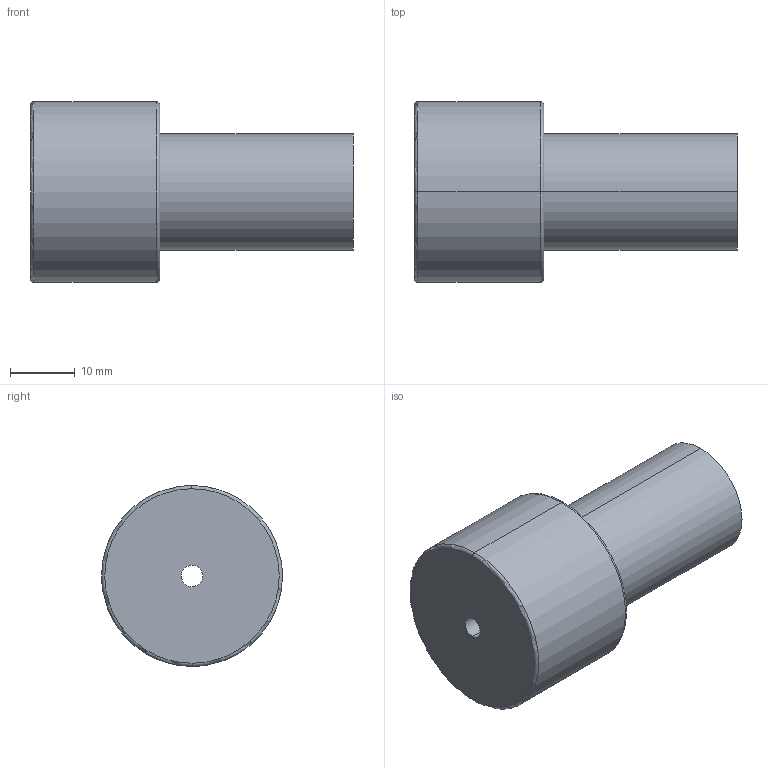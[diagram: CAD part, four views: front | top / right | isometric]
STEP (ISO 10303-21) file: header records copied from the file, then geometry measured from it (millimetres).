
FILE_DESCRIPTION(('CATIA V5 STEP Exchange'),'2;1');
FILE_NAME('C:\Users\Utente\Desktop\IO LAVORO\3D X SITO CF\X SITO\PLASTICA\3D files 367\367-18X50.stp','2021-03-24T15:48:03+00:00',('none'),('none'),'CATIA Version 5 Release 20 GA (IN-10)','CATIA V5 STEP AP203','none');
FILE_SCHEMA(('CONFIG_CONTROL_DESIGN'));
Length unit declared in the file: millimetre
Products named in the file (1): 367-18X50
Bounding box: 50 x 28 x 28 mm (x, y, z)
Volume: 19083 mm3; surface area: 5337.5 mm2
Topology: 1 solids, 1 shells, 13 faces, 42 edges, 32 vertices
Faces by surface type: torus 4, cylinder 4, plane 3, cone 2
Entity records: 608 total; most frequent: CARTESIAN_POINT 194, ORIENTED_EDGE 84, DIRECTION 60, AXIS2_PLACEMENT_3D 42, EDGE_CURVE 42, VERTEX_POINT 32, CIRCLE 28, EDGE_LOOP 16
